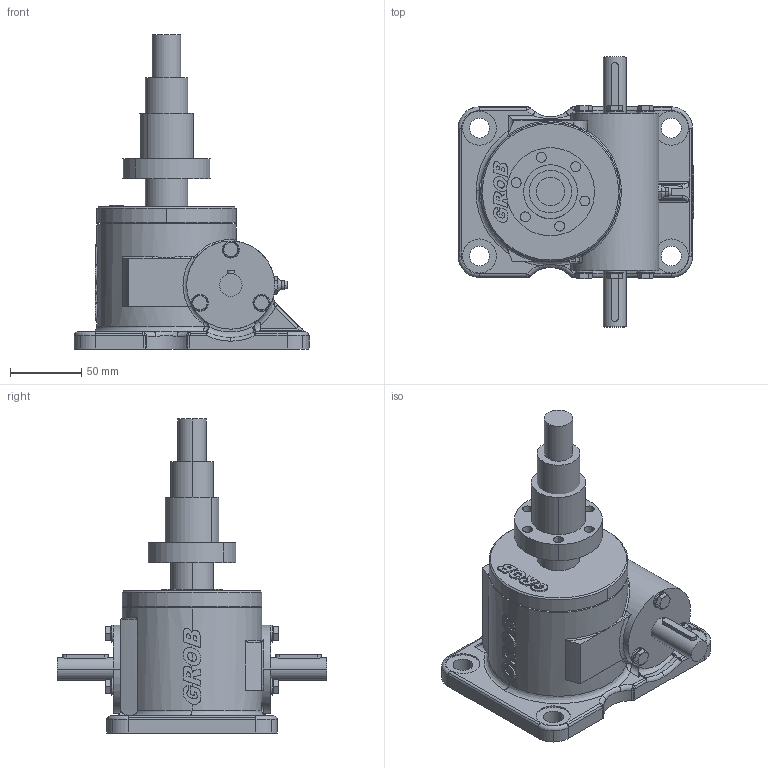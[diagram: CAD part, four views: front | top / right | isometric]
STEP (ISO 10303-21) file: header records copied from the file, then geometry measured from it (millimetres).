
FILE_DESCRIPTION(('STEP AP203'),'1');
FILE_NAME('mc2_5-lmn-f-1f-z-0005-0091-tr30x6-ab-mg0-o_ohne.stp','2023-11-03T08:30:46',('TraceParts'),('TraceParts S.A.'),'Spatial InterOp 3D',' ',' ');
FILE_SCHEMA(('CONFIG_CONTROL_DESIGN'));
Length unit declared in the file: millimetre
Products named in the file (1): 1
Bounding box: 165.9 x 190 x 221 mm (x, y, z)
Volume: 1300478.1 mm3; surface area: 118906.6 mm2
Topology: 3 solids, 3 shells, 693 faces, 1808 edges, 1141 vertices
Faces by surface type: cylinder 330, plane 200, cone 76, bspline 67, torus 14, sphere 6
Entity records: 23963 total; most frequent: CARTESIAN_POINT 7169, ORIENTED_EDGE 3576, DIRECTION 3538, EDGE_CURVE 1788, AXIS2_PLACEMENT_3D 1403, VERTEX_POINT 1141, EDGE_LOOP 753, CIRCLE 740
